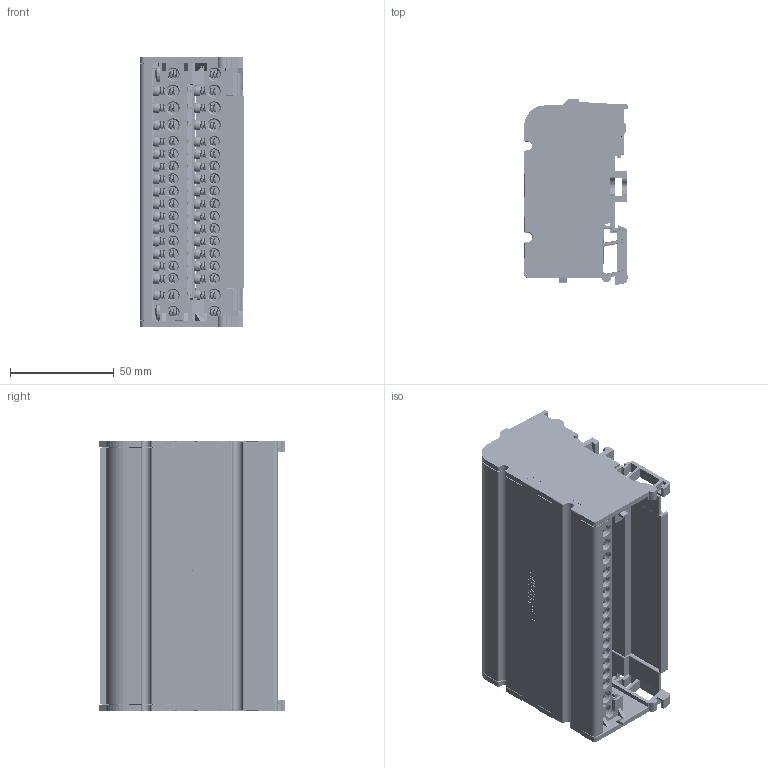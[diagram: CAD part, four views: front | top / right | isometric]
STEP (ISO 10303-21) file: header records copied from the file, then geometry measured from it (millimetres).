
FILE_DESCRIPTION(/* description */ (''),/* implementation_level */ '2;1');
FILE_NAME(/* name */ '2021.4.19.stp',/* time_stamp */ '2021-04-20T17:13:40+08:00',/* author */ (''),/* organization */ (''),/* preprocessor_version */ 'ST-DEVELOPER v16',/* originating_system */ 'SIEMENS PLM Software NX 10.0',/* authorisation */ '');
FILE_SCHEMA (('AUTOMOTIVE_DESIGN { 1 0 10303 214 3 1 1 1 }'));
Products named in the file (1): Admi0370B230uup6
Bounding box: 49.75 x 89.22 x 129.6 mm (x, y, z)
Volume: 106415.6 mm3; surface area: 141647.9 mm2
Topology: 84 solids, 84 shells, 4161 faces, 11343 edges, 7394 vertices
Faces by surface type: plane 2048, bspline 898, cylinder 616, cone 286, torus 238, sphere 46, extrusion 29
Full cylindrical faces by diameter (mm): 4.5 x48, 5 x64, 5.2 x8, 5.4 x24, 7.6 x8
Entity records: 673647 total; most frequent: CARTESIAN_POINT 579864, ORIENTED_EDGE 21382, DIRECTION 14894, EDGE_CURVE 10691, VERTEX_POINT 7162, VECTOR 4982, AXIS2_PLACEMENT_3D 4956, LINE 4953
